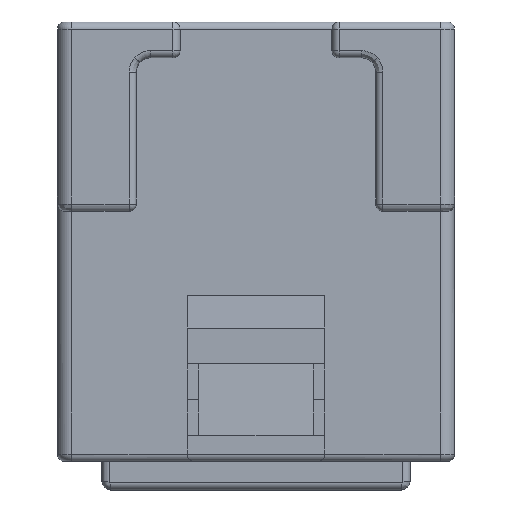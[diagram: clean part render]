
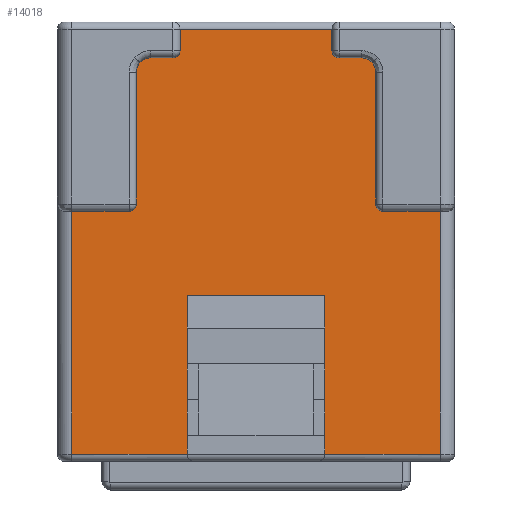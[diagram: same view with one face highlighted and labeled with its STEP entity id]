
A CAD part, front view. The second image highlights one B-rep face of the part: STEP entity #14018.
In plain terms, the highlighted planar face has unit normal (0, -1, 0).
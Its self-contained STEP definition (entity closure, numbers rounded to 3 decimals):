
#4214=CARTESIAN_POINT('',(-5.3,-4.625,-0.5));
#4220=CARTESIAN_POINT('',(5.3,-4.625,-0.5));
#4510=DIRECTION('',(0.,0.,-1.));
#4511=VECTOR('',#4510,1.5);
#4512=CARTESIAN_POINT('',(5.3,-4.625,-0.5));
#4513=LINE('',#4512,#4511);
#4514=DIRECTION('',(1.,0.,0.));
#4515=VECTOR('',#4514,1.55);
#4516=CARTESIAN_POINT('',(5.8,-4.625,-2.5));
#4517=LINE('',#4516,#4515);
#4518=CARTESIAN_POINT('',(7.35,-4.625,-3.5));
#4519=DIRECTION('',(0.,-1.,0.));
#4520=DIRECTION('',(1.,0.,0.));
#4521=AXIS2_PLACEMENT_3D('',#4518,#4519,#4520);
#4523=DIRECTION('',(0.,0.,-1.));
#4524=VECTOR('',#4523,9.2);
#4525=CARTESIAN_POINT('',(8.35,-4.625,-3.5));
#4526=LINE('',#4525,#4524);
#4527=DIRECTION('',(1.,0.,0.));
#4528=VECTOR('',#4527,4.);
#4529=CARTESIAN_POINT('',(8.85,-4.625,-13.2));
#4530=LINE('',#4529,#4528);
#4531=DIRECTION('',(0.,0.,1.));
#4532=VECTOR('',#4531,16.95);
#4533=CARTESIAN_POINT('',(12.85,-4.625,-30.15));
#4534=LINE('',#4533,#4532);
#4535=DIRECTION('',(1.,0.,0.));
#4536=VECTOR('',#4535,8.05);
#4537=CARTESIAN_POINT('',(4.8,-4.625,-30.15));
#4538=LINE('',#4537,#4536);
#4539=DIRECTION('',(0.,0.,1.));
#4540=VECTOR('',#4539,11.1);
#4541=CARTESIAN_POINT('',(4.8,-4.625,-30.15));
#4542=LINE('',#4541,#4540);
#4543=DIRECTION('',(1.,0.,0.));
#4544=VECTOR('',#4543,9.6);
#4545=CARTESIAN_POINT('',(-4.8,-4.625,-19.05));
#4546=LINE('',#4545,#4544);
#4547=DIRECTION('',(0.,0.,1.));
#4548=VECTOR('',#4547,11.1);
#4549=CARTESIAN_POINT('',(-4.8,-4.625,-30.15));
#4550=LINE('',#4549,#4548);
#4551=DIRECTION('',(1.,0.,0.));
#4552=VECTOR('',#4551,8.05);
#4553=CARTESIAN_POINT('',(-12.85,-4.625,-30.15));
#4554=LINE('',#4553,#4552);
#4555=DIRECTION('',(0.,0.,-1.));
#4556=VECTOR('',#4555,16.95);
#4557=CARTESIAN_POINT('',(-12.85,-4.625,-13.2));
#4558=LINE('',#4557,#4556);
#4559=DIRECTION('',(1.,0.,0.));
#4560=VECTOR('',#4559,4.);
#4561=CARTESIAN_POINT('',(-12.85,-4.625,-13.2));
#4562=LINE('',#4561,#4560);
#4563=DIRECTION('',(0.,0.,-1.));
#4564=VECTOR('',#4563,9.2);
#4565=CARTESIAN_POINT('',(-8.35,-4.625,-3.5));
#4566=LINE('',#4565,#4564);
#4567=CARTESIAN_POINT('',(-7.35,-4.625,-3.5));
#4568=DIRECTION('',(0.,-1.,0.));
#4569=DIRECTION('',(0.,0.,1.));
#4570=AXIS2_PLACEMENT_3D('',#4567,#4568,#4569);
#4572=DIRECTION('',(1.,0.,0.));
#4573=VECTOR('',#4572,1.55);
#4574=CARTESIAN_POINT('',(-7.35,-4.625,-2.5));
#4575=LINE('',#4574,#4573);
#4576=DIRECTION('',(0.,0.,1.));
#4577=VECTOR('',#4576,1.5);
#4578=CARTESIAN_POINT('',(-5.3,-4.625,-2.));
#4579=LINE('',#4578,#4577);
#4580=DIRECTION('',(1.,0.,0.));
#4581=VECTOR('',#4580,10.6);
#4582=CARTESIAN_POINT('',(-5.3,-4.625,-0.5));
#4583=LINE('',#4582,#4581);
#4596=CARTESIAN_POINT('',(5.8,-4.625,-2.));
#4597=DIRECTION('',(0.,1.,0.));
#4598=DIRECTION('',(0.,0.,-1.));
#4599=AXIS2_PLACEMENT_3D('',#4596,#4597,#4598);
#4709=CARTESIAN_POINT('',(8.85,-4.625,-12.7));
#4710=DIRECTION('',(0.,1.,0.));
#4711=DIRECTION('',(0.,0.,-1.));
#4712=AXIS2_PLACEMENT_3D('',#4709,#4710,#4711);
#4918=CARTESIAN_POINT('',(-8.85,-4.625,-12.7));
#4919=DIRECTION('',(0.,1.,0.));
#4920=DIRECTION('',(1.,0.,0.));
#4921=AXIS2_PLACEMENT_3D('',#4918,#4919,#4920);
#5035=CARTESIAN_POINT('',(-5.8,-4.625,-2.));
#5036=DIRECTION('',(0.,1.,0.));
#5037=DIRECTION('',(1.,0.,0.));
#5038=AXIS2_PLACEMENT_3D('',#5035,#5036,#5037);
#6531=CARTESIAN_POINT('',(-4.8,-4.625,-19.05));
#6532=CARTESIAN_POINT('',(4.8,-4.625,-19.05));
#6533=VERTEX_POINT('',#6531);
#6534=VERTEX_POINT('',#6532);
#6813=CARTESIAN_POINT('',(-4.8,-4.625,-30.15));
#6814=VERTEX_POINT('',#6813);
#6815=CARTESIAN_POINT('',(4.8,-4.625,-30.15));
#6816=VERTEX_POINT('',#6815);
#6843=CARTESIAN_POINT('',(12.85,-4.625,-30.15));
#6844=CARTESIAN_POINT('',(12.85,-4.625,-13.2));
#6845=VERTEX_POINT('',#6843);
#6846=VERTEX_POINT('',#6844);
#6847=CARTESIAN_POINT('',(-12.85,-4.625,-13.2));
#6848=CARTESIAN_POINT('',(-12.85,-4.625,-30.15));
#6849=VERTEX_POINT('',#6847);
#6850=VERTEX_POINT('',#6848);
#6936=CARTESIAN_POINT('',(-8.35,-4.625,-12.7));
#6937=CARTESIAN_POINT('',(-8.85,-4.625,-13.2));
#6938=VERTEX_POINT('',#6936);
#6939=VERTEX_POINT('',#6937);
#6968=CARTESIAN_POINT('',(-5.3,-4.625,-2.));
#6969=CARTESIAN_POINT('',(-5.8,-4.625,-2.5));
#6970=VERTEX_POINT('',#6968);
#6971=VERTEX_POINT('',#6969);
#6973=VERTEX_POINT('',#4214);
#6974=CARTESIAN_POINT('',(5.8,-4.625,-2.5));
#6975=CARTESIAN_POINT('',(5.3,-4.625,-2.));
#6976=VERTEX_POINT('',#6974);
#6977=VERTEX_POINT('',#6975);
#7026=VERTEX_POINT('',#4220);
#7082=CARTESIAN_POINT('',(8.85,-4.625,-13.2));
#7083=CARTESIAN_POINT('',(8.35,-4.625,-12.7));
#7084=VERTEX_POINT('',#7082);
#7085=VERTEX_POINT('',#7083);
#7204=CARTESIAN_POINT('',(8.35,-4.625,-3.5));
#7205=VERTEX_POINT('',#7204);
#7206=CARTESIAN_POINT('',(-8.35,-4.625,-3.5));
#7207=VERTEX_POINT('',#7206);
#7216=CARTESIAN_POINT('',(7.35,-4.625,-2.5));
#7217=VERTEX_POINT('',#7216);
#7220=CARTESIAN_POINT('',(-7.35,-4.625,-2.5));
#7221=VERTEX_POINT('',#7220);
#13973=CARTESIAN_POINT('',(-12.65,-4.625,0.));
#13974=DIRECTION('',(0.,-1.,0.));
#13975=DIRECTION('',(1.,0.,0.));
#13976=AXIS2_PLACEMENT_3D('',#13973,#13974,#13975);
#13977=PLANE('',#13976);
#13979=ORIENTED_EDGE('',*,*,#13978,.T.);
#13981=ORIENTED_EDGE('',*,*,#13980,.F.);
#13983=ORIENTED_EDGE('',*,*,#13982,.T.);
#13985=ORIENTED_EDGE('',*,*,#13984,.F.);
#13987=ORIENTED_EDGE('',*,*,#13986,.T.);
#13989=ORIENTED_EDGE('',*,*,#13988,.F.);
#13990=ORIENTED_EDGE('',*,*,#13910,.T.);
#13992=ORIENTED_EDGE('',*,*,#13991,.F.);
#13993=ORIENTED_EDGE('',*,*,#12661,.F.);
#13995=ORIENTED_EDGE('',*,*,#13994,.T.);
#13997=ORIENTED_EDGE('',*,*,#13996,.F.);
#13999=ORIENTED_EDGE('',*,*,#13998,.F.);
#14000=ORIENTED_EDGE('',*,*,#12716,.F.);
#14001=ORIENTED_EDGE('',*,*,#13967,.F.);
#14002=ORIENTED_EDGE('',*,*,#13888,.T.);
#14004=ORIENTED_EDGE('',*,*,#14003,.F.);
#14006=ORIENTED_EDGE('',*,*,#14005,.F.);
#14008=ORIENTED_EDGE('',*,*,#14007,.F.);
#14010=ORIENTED_EDGE('',*,*,#14009,.T.);
#14012=ORIENTED_EDGE('',*,*,#14011,.F.);
#14014=ORIENTED_EDGE('',*,*,#14013,.T.);
#14015=ORIENTED_EDGE('',*,*,#13644,.T.);
#14016=EDGE_LOOP('',(#13979,#13981,#13983,#13985,#13987,#13989,#13990,#13992,
#13993,#13995,#13997,#13999,#14000,#14001,#14002,#14004,#14006,#14008,#14010,
#14012,#14014,#14015));
#14017=FACE_OUTER_BOUND('',#14016,.F.);
#4522=CIRCLE('',#4521,1.);
#4571=CIRCLE('',#4570,1.);
#4600=CIRCLE('',#4599,0.5);
#4713=CIRCLE('',#4712,0.5);
#4922=CIRCLE('',#4921,0.5);
#5039=CIRCLE('',#5038,0.5);
#12661=EDGE_CURVE('',#6816,#6845,#4538,.T.);
#12716=EDGE_CURVE('',#6850,#6814,#4554,.T.);
#13644=EDGE_CURVE('',#6973,#7026,#4583,.T.);
#13888=EDGE_CURVE('',#6849,#6939,#4562,.T.);
#13910=EDGE_CURVE('',#7084,#6846,#4530,.T.);
#13967=EDGE_CURVE('',#6849,#6850,#4558,.T.);
#13978=EDGE_CURVE('',#7026,#6977,#4513,.T.);
#13980=EDGE_CURVE('',#6976,#6977,#4600,.T.);
#13982=EDGE_CURVE('',#6976,#7217,#4517,.T.);
#13984=EDGE_CURVE('',#7205,#7217,#4522,.T.);
#13986=EDGE_CURVE('',#7205,#7085,#4526,.T.);
#13988=EDGE_CURVE('',#7084,#7085,#4713,.T.);
#13991=EDGE_CURVE('',#6845,#6846,#4534,.T.);
#13994=EDGE_CURVE('',#6816,#6534,#4542,.T.);
#13996=EDGE_CURVE('',#6533,#6534,#4546,.T.);
#13998=EDGE_CURVE('',#6814,#6533,#4550,.T.);
#14003=EDGE_CURVE('',#6938,#6939,#4922,.T.);
#14005=EDGE_CURVE('',#7207,#6938,#4566,.T.);
#14007=EDGE_CURVE('',#7221,#7207,#4571,.T.);
#14009=EDGE_CURVE('',#7221,#6971,#4575,.T.);
#14011=EDGE_CURVE('',#6970,#6971,#5039,.T.);
#14013=EDGE_CURVE('',#6970,#6973,#4579,.T.);
#14018=ADVANCED_FACE('',(#14017),#13977,.T.);
